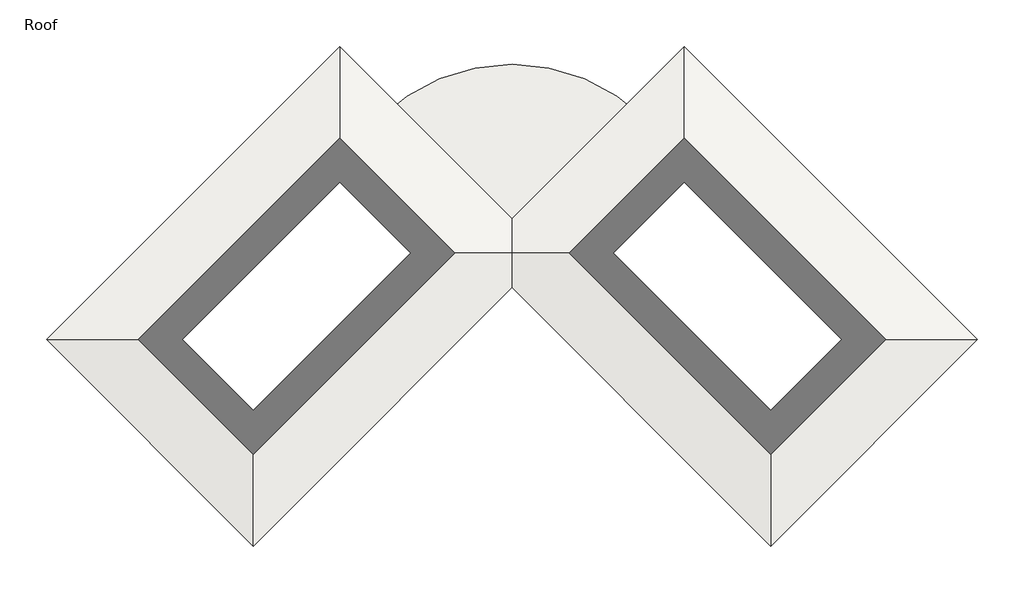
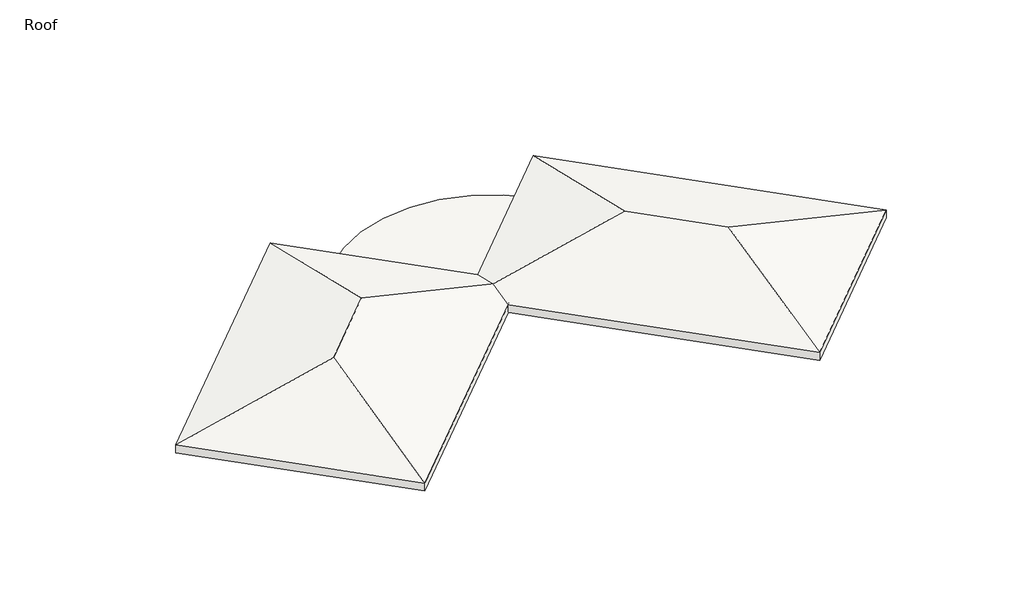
# One storey: 3 roofs.
"""IFC4 building model written with IfcOpenShell, lengths in millimetres."""

import ifcopenshell
import ifcopenshell.guid

model = None  # the IFC model being written
_history = None  # IfcOwnerHistory: only IFC2X3 demands one
_inside = {}  # id of a spatial element -> (the spatial element, [elements in it])
_under = {}  # id of a project, library or spatial element -> (it, [spatial elements below it])
_declared = {}  # id of a project -> (the project, [libraries it declares])
_typed = {}  # id of a type object -> (the type object, [elements of that type])
_made_of = {}  # id of a material, layer set ... -> (it, [elements and type objects made of it])


def new_model(schema):
    """Start an empty IFC model of exactly this schema.

    Asked for "IFC4X3", IfcOpenShell would pick the latest addendum, in which some entities
    have other attributes; the version numbers below select the first issue.
    IFC2X3 requires an IfcOwnerHistory on every rooted entity: one is made here for all.
    """
    global model, _history
    if schema == "IFC4X3":
        model = ifcopenshell.file(schema_version=(4, 3, 0, 0))
    else:
        model = ifcopenshell.file(schema=schema)
    _inside.clear()
    _under.clear()
    _declared.clear()
    _typed.clear()
    _made_of.clear()
    _history = None
    if model.schema == "IFC2X3":
        org = make("IfcOrganization", Name="unknown")
        user = make(
            "IfcPersonAndOrganization",
            ThePerson=make("IfcPerson", FamilyName="unknown"),
            TheOrganization=org,
        )
        app = make(
            "IfcApplication",
            ApplicationDeveloper=org,
            Version="unknown",
            ApplicationFullName="unknown",
            ApplicationIdentifier="unknown",
        )
        _history = make(
            "IfcOwnerHistory",
            OwningUser=user,
            OwningApplication=app,
            ChangeAction="ADDED",
            CreationDate=0,
        )
    return model


def make(cls, **values):
    """One entity of the class cls with the attributes given. An attribute that is None is left unset."""
    return model.create_entity(
        cls, **{name: value for name, value in values.items() if value is not None}
    )


def rooted(cls, **values):
    """An entity with a GlobalId (a new one), such as an element, a storey or a relation."""
    return make(cls, GlobalId=ifcopenshell.guid.new(), OwnerHistory=_history, **values)


def si_unit(unit_type, name, prefix=None):
    """IfcSIUnit, for example si_unit("LENGTHUNIT", "METRE", prefix="MILLI")."""
    return make("IfcSIUnit", UnitType=unit_type, Prefix=prefix, Name=name)


def assignment(units):
    """IfcUnitAssignment: the units of a project."""
    return None if units is None else make("IfcUnitAssignment", Units=units)


def point(xyz):
    """IfcCartesianPoint."""
    return None if xyz is None else make("IfcCartesianPoint", Coordinates=xyz)


def direction(xyz):
    """IfcDirection."""
    return None if xyz is None else make("IfcDirection", DirectionRatios=xyz)


def frame(location, z_axis=None, x_axis=None):
    """IfcAxis2Placement3D, a coordinate frame: its origin and axes. An axis left out is left unset."""
    return make(
        "IfcAxis2Placement3D",
        Location=point(location),
        Axis=direction(z_axis),
        RefDirection=direction(x_axis),
    )


def frame_2d(location, x_axis=None):
    """IfcAxis2Placement2D, a coordinate frame in the plane: its origin and x axis."""
    return make(
        "IfcAxis2Placement2D", Location=point(location), RefDirection=direction(x_axis)
    )


def origin():
    """The frame at (0, 0, 0) with its axes left unset."""
    return frame((0.0, 0.0, 0.0))


def place(relative_to, where):
    """IfcLocalPlacement: puts the frame where relative to a parent placement (None: the world)."""
    return make(
        "IfcLocalPlacement", PlacementRelTo=relative_to, RelativePlacement=where
    )


def context(
    kind, dimensions, precision=None, world=None, true_north=None, identifier=None
):
    """IfcGeometricRepresentationContext, for example the 3D "Model" context."""
    return make(
        "IfcGeometricRepresentationContext",
        ContextIdentifier=identifier,
        ContextType=kind,
        CoordinateSpaceDimension=dimensions,
        Precision=precision,
        WorldCoordinateSystem=world,
        TrueNorth=true_north,
    )


def project(units=None, contexts=None):
    """IfcProject with its units and contexts."""
    return rooted(
        "IfcProject",
        Name="project",
        RepresentationContexts=contexts,
        UnitsInContext=assignment(units),
    )


def spatial(cls, under=None, at=None, **own):
    """A site, building, storey or space (cls), placed at a placement, below another one or the project."""
    s = rooted(cls, ObjectPlacement=at, **own)
    if under is not None:
        _under.setdefault(under.id(), (under, []))[1].append(s)
    return s


def polyline(points):
    """IfcPolyline through the points."""
    return make("IfcPolyline", Points=[point(p) for p in points])


def circle_curve(where, radius):
    """IfcCircle in the frame where."""
    return make("IfcCircle", Position=where, Radius=radius)


def trimmed(basis, trim1, trim2, sense, master):
    """IfcTrimmedCurve: the piece of a basis curve between two trims."""
    return make(
        "IfcTrimmedCurve",
        BasisCurve=basis,
        Trim1=trim1,
        Trim2=trim2,
        SenseAgreement=sense,
        MasterRepresentation=master,
    )


def segment(curve, same_sense, transition):
    """IfcCompositeCurveSegment."""
    return make(
        "IfcCompositeCurveSegment",
        Transition=transition,
        SameSense=same_sense,
        ParentCurve=curve,
    )


def composite_curve(segments, self_intersect=None):
    """IfcCompositeCurve: segments joined end to end."""
    return make("IfcCompositeCurve", Segments=segments, SelfIntersect=self_intersect)


def outline(outer, holes=None, kind="AREA"):
    """IfcArbitraryClosedProfileDef: a profile drawn as a closed curve; with holes, ...WithVoids."""
    if holes is None:
        return make("IfcArbitraryClosedProfileDef", ProfileType=kind, OuterCurve=outer)
    return make(
        "IfcArbitraryProfileDefWithVoids",
        ProfileType=kind,
        OuterCurve=outer,
        InnerCurves=holes,
    )


def extrude(swept, where, along, depth):
    """IfcExtrudedAreaSolid: the profile swept, set in the frame where, extruded along a direction by depth."""
    return make(
        "IfcExtrudedAreaSolid",
        SweptArea=swept,
        Position=where,
        ExtrudedDirection=direction(along),
        Depth=depth,
    )


def faces_of(points, faces, orient=None, outer=None):
    """IfcFace entities. A face is a list of loops; a loop is a list of indices into points, from 0.

    orient and outer hold one flag for each loop. By default every Orientation is true, the
    first loop of a face is its IfcFaceOuterBound and the others are IfcFaceBound.
    """
    made = []
    for i, loops in enumerate(faces):
        bounds = []
        for j, loop in enumerate(loops):
            is_outer = j == 0 if outer is None else outer[i][j]
            bounds.append(
                make(
                    "IfcFaceOuterBound" if is_outer else "IfcFaceBound",
                    Bound=make("IfcPolyLoop", Polygon=[points[k] for k in loop]),
                    Orientation=True if orient is None else orient[i][j],
                )
            )
        made.append(make("IfcFace", Bounds=bounds))
    return made


def faceted_brep(points, faces, orient=None, outer=None, voids=None):
    """IfcFacetedBrep: a solid bounded by flat faces; with voids (closed shells), ...WithVoids."""
    shared = [point(p) for p in points]
    hull = make("IfcClosedShell", CfsFaces=faces_of(shared, faces, orient, outer))
    if voids is None:
        return make("IfcFacetedBrep", Outer=hull)
    return make(
        "IfcFacetedBrepWithVoids",
        Outer=hull,
        Voids=[
            make(cls, CfsFaces=faces_of(shared, fs, o, b)) for cls, fs, o, b in voids
        ],
    )


def shape(context_of_items, identifier, shape_type, items):
    """IfcShapeRepresentation: the items that make up one representation, for example the "Body"."""
    return make(
        "IfcShapeRepresentation",
        ContextOfItems=context_of_items,
        RepresentationIdentifier=identifier,
        RepresentationType=shape_type,
        Items=items,
    )


def made_of(thing, what):
    """Note that an element or type object is made of a material, layer set ...; save() writes the relation."""
    if what is not None:
        _made_of.setdefault(what.id(), (what, []))[1].append(thing)
    return thing


def element(
    cls,
    number,
    at=None,
    inside=None,
    cuts=None,
    type_object=None,
    material=None,
    context=None,
    identifier="Body",
    shape_type=None,
    held_by="IfcProductDefinitionShape",
    body=None,
    shapes=None,
    **own,
):
    """One element of the class cls, such as IfcWall. Its Tag is "e" and its number.

    at: its placement. inside: the storey or other place that contains it. cuts: it is an
    opening in that element (IfcRelVoidsElement). A single representation is given by context,
    identifier, shape_type and body (its items); several are given by shapes. held_by: the class
    of the entity that holds the representations. save() writes the other relations.
    """
    e = rooted(cls, Tag="e%d" % number, ObjectPlacement=at, **own)
    if body is not None:
        shapes = [shape(context, identifier, shape_type, body)]
    if shapes is not None:
        e.Representation = make(held_by, Representations=shapes)
    if inside is not None:
        _inside.setdefault(inside.id(), (inside, []))[1].append(e)
    if cuts is not None:
        rooted(
            "IfcRelVoidsElement", RelatingBuildingElement=cuts, RelatedOpeningElement=e
        )
    if type_object is not None:
        _typed.setdefault(type_object.id(), (type_object, []))[1].append(e)
    return made_of(e, material)


def aggregate(whole, parts):
    """IfcRelAggregates: a whole, such as a stair, and the parts it consists of."""
    return rooted("IfcRelAggregates", RelatingObject=whole, RelatedObjects=parts)


def save(model, path):
    """Write the relations noted so far, then the file.

    IfcRelAggregates (storeys below a building ...), IfcRelContainedInSpatialStructure (elements
    in a storey), IfcRelDefinesByType, IfcRelAssociatesMaterial and IfcRelDeclares: one each for
    every whole, place, type object, material and project.
    """
    for whole, parts in _under.values():
        aggregate(whole, parts)
    for where, things in _inside.values():
        rooted(
            "IfcRelContainedInSpatialStructure",
            RelatedElements=things,
            RelatingStructure=where,
        )
    for kind, things in _typed.values():
        rooted("IfcRelDefinesByType", RelatedObjects=things, RelatingType=kind)
    for what, things in _made_of.values():
        rooted("IfcRelAssociatesMaterial", RelatedObjects=things, RelatingMaterial=what)
    for by, libraries in _declared.values():
        rooted("IfcRelDeclares", RelatingContext=by, RelatedDefinitions=libraries)
    model.write(path)


model = new_model("IFC4")

# Units and contexts
model_context = context("Model", 3, world=origin())
ifc_project = project(units=[si_unit("LENGTHUNIT", "METRE", prefix="MILLI")], contexts=[model_context])

# Site, building, storey
site = spatial("IfcSite", under=ifc_project)
building = spatial("IfcBuilding", under=site)
storey = spatial("IfcBuildingStorey", under=building, Name="Roof", Elevation=4572.0)

# Roofs
placement = place(None, origin())
element("IfcRoof", 1, ObjectType="Steel Bar Joist - Steel Deck - EPDM Membrane", at=placement, inside=storey, context=model_context, shape_type="Brep", body=[
    faceted_brep([(-10222.2915721, 12341.0387384, 4164.7405634), (-10222.2915721, 1994.6523161, 6606.9619061), (-14532.8145102, -2315.870622, 6606.9619061), (-24879.2009326, -2315.870622, 4164.7405634), (-14532.8145102, -12662.2570444, 4164.7405634), (124.0948502, 1994.6523161, 4164.7405634), (-10222.2915721, 12341.0387384, 4697.1349459), (-24879.2009326, -2315.870622, 4697.1349459), (-14532.8145102, -2315.870622, 7139.3562885), (-10222.2915721, 1994.6523161, 7139.3562885), (-14532.8145102, -12662.2570444, 4697.1349459), (124.0948502, 1994.6523161, 4697.1349459)], [[[0, 1, 2, 3]], [[3, 2, 4]], [[4, 2, 1, 5]], [[1, 0, 5]], [[6, 7, 8, 9]], [[7, 10, 8]], [[10, 11, 9, 8]], [[6, 9, 11]], [[3, 7, 6, 0]], [[4, 10, 7, 3]], [[5, 11, 10, 4]], [[0, 6, 11, 5]]]),
])
element("IfcRoof", 2, ObjectType="Steel Bar Joist - Steel Deck - EPDM Membrane", at=placement, inside=storey, context=model_context, shape_type="SweptSolid", body=[
    extrude(outline(composite_curve([segment(trimmed(circle_curve(frame_2d((-1601.2456959, 1994.6523161)), 9450.0), [point((-8283.4047781, 8676.8113983))], [point((5080.9133863, 8676.8113983))], False, "CARTESIAN"), True, "CONTINUOUS"), segment(polyline([(5080.9133863, 8676.8113983), (-1601.2456959, 1994.6523161), (-8283.4047781, 8676.8113983)]), True, "CONTINUOUS")], self_intersect=False)), frame((0.0, 0.0, 4165.0), z_axis=(0.0, 0.0, 1.0), x_axis=(1.0, 0.0, 0.0)), (0.0, 0.0, 1.0), 505.0),
])
element("IfcRoof", 3, ObjectType="Steel Bar Joist - Steel Deck - EPDM Membrane", at=placement, inside=storey, context=model_context, shape_type="Brep", body=[
    faceted_brep([(7019.8001803, 1994.6523161, 6606.9619061), (7019.8001803, 12341.0387384, 4164.7405634), (21676.7095408, -2315.870622, 4164.7405634), (11330.3231184, -2315.870622, 6606.9619061), (11330.3231184, -12662.2570444, 4164.7405634), (-3326.586242, 1994.6523161, 4164.7405634), (7019.8001803, 12341.0387384, 4697.1349459), (7019.8001803, 1994.6523161, 7139.3562885), (11330.3231184, -2315.870622, 7139.3562885), (21676.7095408, -2315.870622, 4697.1349459), (11330.3231184, -12662.2570444, 4697.1349459), (-3326.586242, 1994.6523161, 4697.1349459)], [[[0, 1, 2, 3]], [[4, 3, 2]], [[5, 0, 3, 4]], [[1, 0, 5]], [[6, 7, 8, 9]], [[10, 9, 8]], [[11, 10, 8, 7]], [[6, 11, 7]], [[1, 6, 9, 2]], [[2, 9, 10, 4]], [[4, 10, 11, 5]], [[5, 11, 6, 1]]]),
])

save(model, "model.ifc")
